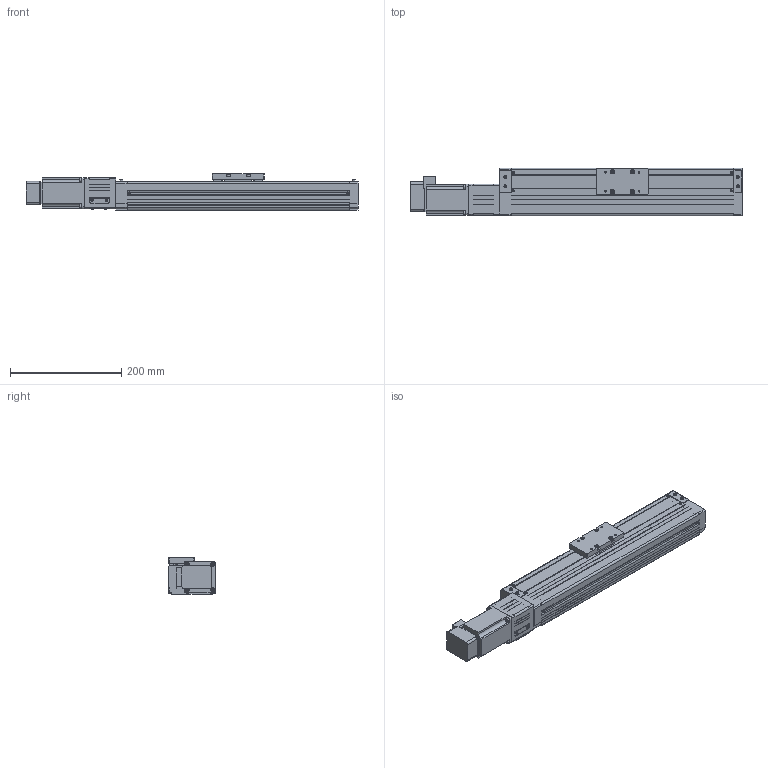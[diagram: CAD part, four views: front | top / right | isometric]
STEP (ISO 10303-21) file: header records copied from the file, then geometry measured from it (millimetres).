
FILE_DESCRIPTION((''),'2;1');
FILE_NAME('D:\製品 (図面)\カタログ用3D\SU部品\SU85×65\ダウンロード用\SU85×65-CM30\SU85×65-300-CM30.stp','2011-07-02T13:32:00',('Tsuchiya'),(''),'Autodesk Inventor 10','Autodesk Inventor 10','');
FILE_SCHEMA(('AUTOMOTIVE_DESIGN { 1 0 10303 214 1 1 1 1 }'));
Length unit declared in the file: millimetre
Products named in the file (4): SU85×65-300-CM30; SU85×65-300-CM301; SU85×65-300-CM302; SU85×65-300-CM303
Assembly tree (3 placements, depth 2):
  SU85×65-300-CM30
    SU85×65-300-CM301
    SU85×65-300-CM302
    SU85×65-300-CM303
Bounding box: 596.5 x 85 x 65 mm (x, y, z)
Volume: 1243088.3 mm3; surface area: 348155.9 mm2
Topology: 9 solids, 9 shells, 966 faces, 2546 edges, 1646 vertices
Faces by surface type: plane 798, cylinder 128, cone 24, torus 12, bspline 4
Full cylindrical faces by diameter (mm): 3.242 x8, 4 x4, 4.134 x8, 4.5 x4, 5.5 x4, 6 x1, 6.35 x1, 7 x8, 8 x1, 11.5 x1, 12 x1, 13 x1, 38.1 x2, 43 x1
Entity records: 29447 total; most frequent: CARTESIAN_POINT 5878, ORIENTED_EDGE 4854, DIRECTION 4640, EDGE_CURVE 2427, VECTOR 1924, LINE 1924, VERTEX_POINT 1612, AXIS2_PLACEMENT_3D 1358
